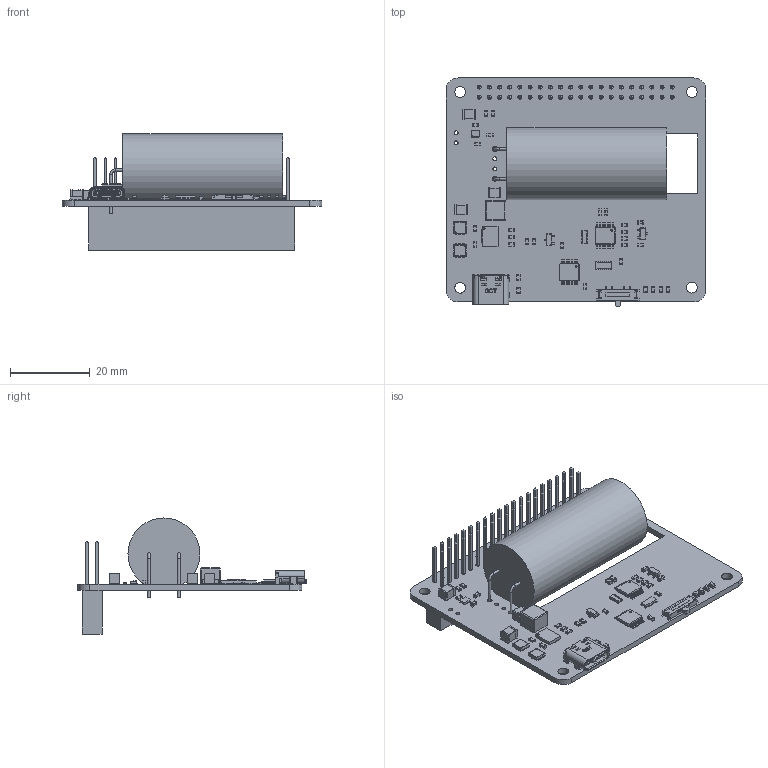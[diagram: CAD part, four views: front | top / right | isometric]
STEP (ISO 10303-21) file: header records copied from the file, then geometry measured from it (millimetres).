
FILE_DESCRIPTION(('FreeCAD Model'),'2;1');
FILE_NAME('Open CASCADE Shape Model','2026-07-16T13:44:09',(''),(''), 'Open CASCADE STEP processor 7.8','FreeCAD','Unknown');
FILE_SCHEMA(('AUTOMOTIVE_DESIGN { 1 0 10303 214 1 1 1 1 }'));
Length unit declared in the file: millimetre
Products named in the file (132): stubborn-balance-lite-1100f 1; Passive1; Passive9; Passive11; Passive12; LED-G-1; IC1; Mosfet1; M1-Pin1; M1-Pin2; M1-Pin3; M1-Pin4; M1-Pin5; M1-Case; M1-Case2; IC2; Body; ThermalPin; PinsArrayLR008; PinsArrayLR; PinsArrayLR001; PinsArrayLR002; PinsArrayLR003; PinsArrayLR004; PinsArrayLR005; PinsArrayLR006; PinsArrayLR007; Passive18; Body001; Pins016; Pins; Pins001; Pins002; Pins003; Pins004; Pins005; Pins006; Pins007; Pins008; Pins009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
Assembly tree (168 placements, depth 4):
  stubborn-balance-lite-1100f 1
    Passive1  x16
    Passive9  x8
    Passive11  x3
    Passive12
    LED-G-1  x5
    IC1  x2
    Mosfet1
      M1-Pin1
      M1-Pin2
      M1-Pin3
      M1-Pin4
      M1-Pin5
      M1-Case
      M1-Case2
    IC2
      Body
      ThermalPin
      PinsArrayLR008
        PinsArrayLR
        PinsArrayLR001
        PinsArrayLR002
        PinsArrayLR003
        PinsArrayLR004
        PinsArrayLR005
        PinsArrayLR006
        PinsArrayLR007
    Passive18
      Body001
      Pins016
        Pins
        Pins001
        Pins002
        Pins003
        Pins004
        Pins005
        Pins006
        Pins007
        Pins008
        Pins009
        Pins010
        Pins011
        Pins012
        Pins013
        Pins014
        Pins015
    IC3  x2
    supercap1100
      Cut
      Cut001
      Cap1100
    Passive22
    Switch
      SW_PART1
      SW_PART2
    USB-C
      HSG_
ÃÂÃÂÃÂÃÂÃÂÃÂÃÂÃÂÃÂ
ÃÂÃÂÃÂÃÂÃÂÃÂÃÂ¬ÃÂÃÂ
ÃÂÃÂÃÂÃÂÃÂÃÂÃÂÃÂÃÂ
ÃÂÃÂÃÂÃÂÃÂ
      Shell_0.95
    IC5
      Body002
Bounding box: 65 x 57.05 x 29.03 mm (x, y, z)
Volume: 17837.5 mm3; surface area: 15114.9 mm2
Topology: 154 solids, 154 shells, 4191 faces, 10642 edges, 6815 vertices
Faces by surface type: plane 3270, cylinder 794, bspline 73, cone 48, sphere 4, torus 2
Full cylindrical faces by diameter (mm): 0.202 x1, 0.4 x6, 0.5 x1, 0.6 x6, 0.9 x2, 1 x44, 1.2 x2, 2.7 x4, 18 x1
Entity records: 91450 total; most frequent: CARTESIAN_POINT 17645, ORIENTED_EDGE 14620, DIRECTION 13733, EDGE_CURVE 7310, LINE 6075, VECTOR 6075, VERTEX_POINT 4667, AXIS2_PLACEMENT_3D 3829
